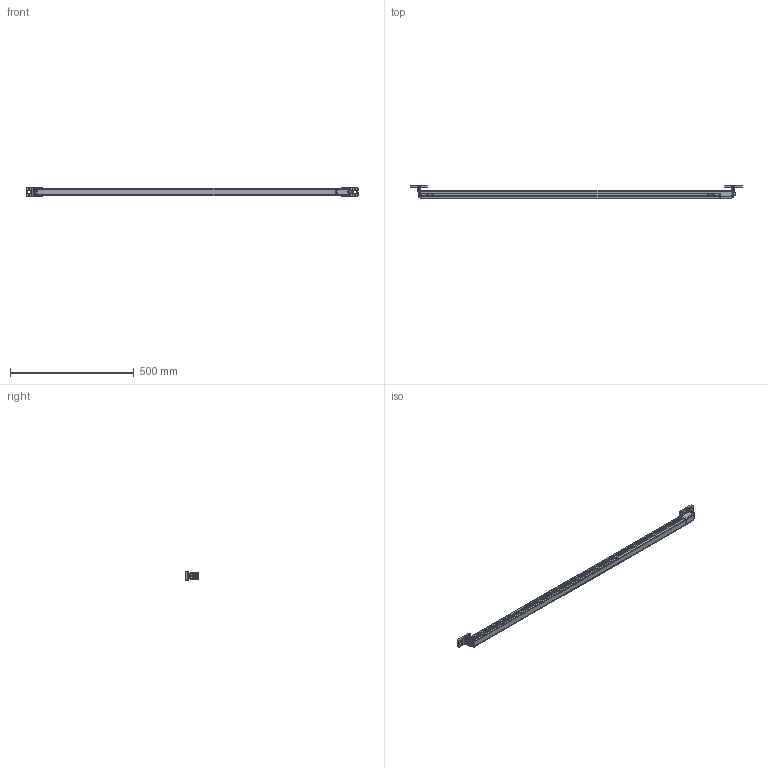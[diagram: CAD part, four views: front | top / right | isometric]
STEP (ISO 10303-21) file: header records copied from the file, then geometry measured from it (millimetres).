
FILE_DESCRIPTION((''),'2;1');
FILE_NAME('M:\INVENTORjob\Konstruktion\LV6036\Freigabe\Bauraummodelle\Geräte\MLC_R_1200.stp','2012-12-06T10:55:36',('seisen'),(''),'Autodesk Inventor 2009','Autodesk Inventor 2009','');
FILE_SCHEMA(('AUTOMOTIVE_DESIGN { 1 0 10303 214 1 1 1 1 }'));
Length unit declared in the file: millimetre
Products named in the file (13): MLC_R_1200; Anschlusskappe_R; Profil MLC 1200; Endkappe_R; BT-R_Zubehör; Wandteil_Zubehör; Klemmring_BT-R_Zubehör; DIN 912 - ersetzt durch DIN EN ISO 4762 M5 x 12; DIN 934 - ersetzt durch DIN EN 24032/28673/28674 M5; DIN 6912 M5 x 30; Zylinder_Zubehör; DIN 7991 - ersetzt durch DIN EN ISO 10642 M6  x  12; Nutenstein M6
Assembly tree (16 placements, depth 3):
  MLC_R_1200
    Anschlusskappe_R
    Profil MLC 1200
    Endkappe_R
    BT-R_Zubehör  x2
      Wandteil_Zubehör
      Klemmring_BT-R_Zubehör
      DIN 912 - ersetzt durch DIN EN ISO 4762 M5 x 12
      DIN 934 - ersetzt durch DIN EN 24032/28673/28674 M5
      DIN 6912 M5 x 30
    Zylinder_Zubehör
    DIN 7991 - ersetzt durch DIN EN ISO 10642 M6  x  12
    Nutenstein M6  x2
Bounding box: 1339.91 x 55.35 x 34 mm (x, y, z)
Volume: 1178526.9 mm3; surface area: 228550.5 mm2
Topology: 21 solids, 21 shells, 779 faces, 2035 edges, 1285 vertices
Faces by surface type: plane 350, cylinder 254, bspline 64, torus 47, cone 46, sphere 18
Full cylindrical faces by diameter (mm): 2.5 x2, 4.65 x2, 5 x12, 5.18 x2, 5.55 x2, 6 x1, 6.2 x9, 8.5 x4, 8.6 x2, 11.34 x1, 12 x2, 18 x1, 22.5 x1
Entity records: 11933 total; most frequent: CARTESIAN_POINT 3625, ORIENTED_EDGE 1642, DIRECTION 1635, EDGE_CURVE 821, AXIS2_PLACEMENT_3D 607, VERTEX_POINT 549, VECTOR 421, LINE 421
